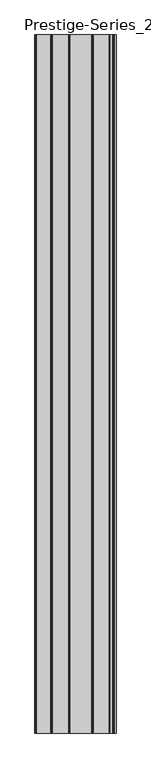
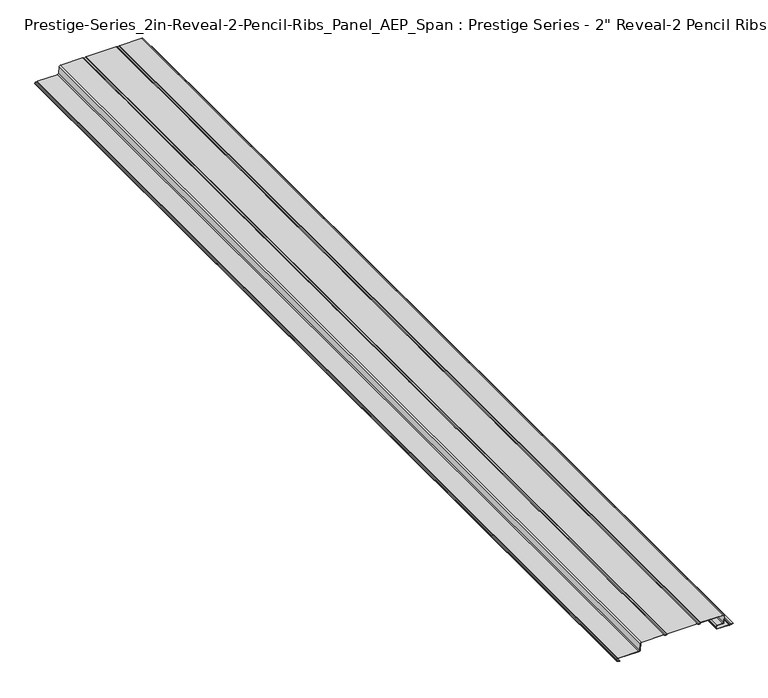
"""IFC4 building model written with IfcOpenShell, lengths in millimetres: proxy geometry."""

from ifc_helpers import new_model, si_unit, frame, origin, place, context, project, spatial, polyline, circle_curve, source, transform, mapped, element, save
from ifc_brep_helpers import plane_surface, cylinder_surface, revolved_surface, advanced_brep


def proxy_11bd0d3a(model_context):
    return source(origin(), model_context, "Body", "AdvancedBrep", [
        advanced_brep(
        [(-198.7547211, -3048.0, 3.7242703), (-189.4843346, -3048.0, 0.5644947), (-189.194247, -3048.0, 1.4155751), (-198.4646336, -3048.0, 4.5753508), (-199.9233445, -3048.0, 6.6828416), (-198.4939681, -3048.0, 8.7773217), (-195.6112258, -3048.0, 9.8066494), (-193.7761786, -3048.0, 10.12444), (-132.2998441, -3048.0, 10.12444), (-127.8696152, -3048.0, 14.1809361), (-126.0830083, -3048.0, 34.43747), (-123.0628556, -3048.0, 37.2035012), (-56.0920229, -3048.0, 37.2035012), (-55.0140101, -3048.0, 36.7208286), (-50.8150249, -3048.0, 34.7940335), (-46.581887, -3048.0, 36.6871455), (-45.3376777, -3048.0, 37.20084), (45.5747602, -3048.0, 37.20084), (46.5182123, -3048.0, 36.7248039), (50.7849751, -3048.0, 34.7940335), (55.018113, -3048.0, 36.6871455), (55.9951899, -3048.0, 37.20084), (123.0540042, -3048.0, 37.20084), (126.0938626, -3048.0, 33.9974885), (125.0907645, -3048.0, 14.8582693), (122.0509066, -3048.0, 11.97356), (106.3216484, -3048.0, 11.97356), (102.2536799, -3048.0, 7.9055915), (102.2536799, -3048.0, 3.9308085), (106.3216484, -3048.0, -0.13716), (139.8164818, -3048.0, -0.13716), (141.3747019, -3048.0, -0.7731706), (143.2602599, -3048.0, -0.7731706), (144.81848, -3048.0, -0.13716), (148.8421311, -3048.0, -0.13716), (153.568983, -3048.0, 1.1293858), (153.336265, -3048.0, 1.9979081), (148.7237554, -3048.0, 0.762), (144.6420429, -3048.0, 0.762), (142.9228086, -3048.0, 0.0602691), (141.7121532, -3048.0, 0.0602691), (139.9929189, -3048.0, 0.762), (106.3278397, -3048.0, 0.762), (103.1528399, -3048.0, 3.9369998), (103.1528399, -3048.0, 7.8994002), (106.3278397, -3048.0, 11.0744), (122.0567819, -3048.0, 11.0744), (125.9883846, -3048.0, 14.8053411), (126.9921317, -3048.0, 33.9569429), (123.0605284, -3048.0, 38.1), (56.1287561, -3048.0, 38.1), (54.3856333, -3048.0, 37.3195291), (50.7849751, -3048.0, 35.6870026), (47.1954553, -3048.0, 37.3072365), (45.441194, -3048.0, 38.1), (-45.4712439, -3048.0, 38.1), (-47.2143667, -3048.0, 37.3195291), (-50.8150249, -3048.0, 35.6870026), (-54.3820587, -3048.0, 37.2818711), (-56.158806, -3048.0, 38.1), (-123.0689632, -3048.0, 38.1), (-126.977312, -3048.0, 34.5213584), (-128.7647961, -3048.0, 14.2656231), (-132.3055131, -3048.0, 11.0236), (-193.7772508, -3048.0, 11.0236), (-195.9125782, -3048.0, 10.6538074), (-198.7963302, -3048.0, 9.6241191), (-200.8185197, -3048.0, 6.6814543), (-198.7547211, 0.0, 3.7242703), (-200.8185197, 0.0, 6.6814543), (-198.7963302, 0.0, 9.6241191), (-195.9125782, 0.0, 10.6538074), (-193.7772508, 0.0, 11.0236), (-132.3055131, 0.0, 11.0236), (-128.7647961, 0.0, 14.2656231), (-126.977312, 0.0, 34.5213584), (-123.0689632, 0.0, 38.1), (-56.158806, 0.0, 38.1), (-54.4156832, 0.0, 37.3195291), (-50.8150249, 0.0, 35.6870026), (-47.2479912, 0.0, 37.2818711), (-45.4712439, 0.0, 38.1), (45.441194, 0.0, 38.1), (47.1953198, 0.0, 37.3071172), (50.7849751, 0.0, 35.6870026), (54.3520088, 0.0, 37.2818711), (56.1287561, 0.0, 38.1), (123.0605284, 0.0, 38.1), (126.9921317, 0.0, 33.9569429), (125.9883846, 0.0, 14.8053411), (122.0567819, 0.0, 11.0744), (106.3278397, 0.0, 11.0744), (103.1528399, 0.0, 7.8994002), (103.1528399, 0.0, 3.9369998), (106.3278397, 0.0, 0.762), (139.9929189, 0.0, 0.762), (141.7121532, 0.0, 0.0602691), (142.9228086, 0.0, 0.0602691), (144.6420429, 0.0, 0.762), (148.7237554, 0.0, 0.762), (153.336265, 0.0, 1.9979081), (153.568983, 0.0, 1.1293858), (148.8421311, 0.0, -0.13716), (144.81848, 0.0, -0.13716), (143.2602599, 0.0, -0.7731706), (141.3747019, 0.0, -0.7731706), (139.8164818, 0.0, -0.13716), (106.3216484, 0.0, -0.13716), (102.2536799, 0.0, 3.9308085), (102.2536799, 0.0, 7.9055915), (106.3216484, 0.0, 11.97356), (122.0509066, 0.0, 11.97356), (125.0907645, 0.0, 14.8582693), (126.0938626, 0.0, 33.9974885), (123.0540042, 0.0, 37.20084), (55.9951899, 0.0, 37.20084), (55.0517378, 0.0, 36.7248039), (50.7849751, 0.0, 34.7940335), (46.5518372, 0.0, 36.6871455), (45.5747602, 0.0, 37.20084), (-45.3376777, 0.0, 37.20084), (-46.5482622, 0.0, 36.7248039), (-50.8150249, 0.0, 34.7940335), (-55.0481628, 0.0, 36.6871455), (-56.0920229, 0.0, 37.2035012), (-123.0628556, 0.0, 37.2035012), (-126.0830083, 0.0, 34.43747), (-127.8696152, 0.0, 14.1809361), (-132.2998441, 0.0, 10.12444), (-193.7761786, 0.0, 10.12444), (-195.6112258, 0.0, 9.8066494), (-198.4939681, 0.0, 8.7773217), (-199.9233445, 0.0, 6.6828416), (-198.4646336, 0.0, 4.5753508), (-189.194247, 0.0, 1.4155751), (-189.4843346, 0.0, 0.5644947)],
        [
            (0, 1),
            (1, 2),
            (2, 3),
            (3, 4, circle_curve(frame((-197.769376, -3048.0, 6.6151497), z_axis=(0.0, 1.0, 0.0), x_axis=(1.0, 0.0, 0.0)), 2.155032)),
            (4, 5, circle_curve(frame((-197.7692918, -3048.0, 6.7477884), z_axis=(0.0, 1.0, 0.0), x_axis=(1.0, 0.0, 0.0)), 2.1550316)),
            (5, 6),
            (6, 7, circle_curve(frame((-193.7761786, -3048.0, 4.6674035), z_axis=(0.0, 1.0, 0.0), x_axis=(1.0, 0.0, 0.0)), 5.4570365)),
            (7, 8),
            (8, 9, circle_curve(frame((-132.2998441, -3048.0, 14.5718853), z_axis=(0.0, -1.0, 0.0), x_axis=(1.0, 0.0, 0.0)), 4.4474453)),
            (9, 10),
            (10, 11, circle_curve(frame((-123.0628556, -3048.0, 34.1716751), z_axis=(0.0, 1.0, 0.0), x_axis=(1.0, 0.0, 0.0)), 3.0318261)),
            (11, 12),
            (12, 13, circle_curve(frame((-56.0920229, -3048.0, 35.7583349), z_axis=(0.0, 1.0, 0.0), x_axis=(1.0, 0.0, 0.0)), 1.4451663)),
            (13, 14, circle_curve(frame((-50.8200321, -3048.0, 40.462197), z_axis=(0.0, -1.0, 0.0), x_axis=(1.0, 0.0, 0.0)), 5.6681657)),
            (14, 15, circle_curve(frame((-50.8100178, -3048.0, 40.462197), z_axis=(0.0, -1.0, 0.0), x_axis=(1.0, 0.0, 0.0)), 5.6681657)),
            (15, 16, circle_curve(frame((-45.4712439, -3048.0, 35.763198), z_axis=(0.0, 1.0, 0.0), x_axis=(1.0, 0.0, 0.0)), 1.4438332)),
            (16, 17),
            (17, 18, circle_curve(frame((45.441194, -3048.0, 35.763198), z_axis=(0.0, 1.0, 0.0), x_axis=(1.0, 0.0, 0.0)), 1.4438332)),
            (18, 19, circle_curve(frame((50.7799679, -3048.0, 40.462197), z_axis=(0.0, -1.0, 0.0), x_axis=(1.0, 0.0, 0.0)), 5.6681657)),
            (19, 20, circle_curve(frame((50.7899822, -3048.0, 40.462197), z_axis=(0.0, -1.0, 0.0), x_axis=(1.0, 0.0, 0.0)), 5.6681657)),
            (20, 21, circle_curve(frame((56.1287561, -3048.0, 35.763198), z_axis=(0.0, 1.0, 0.0), x_axis=(1.0, 0.0, 0.0)), 1.4438332)),
            (21, 22),
            (22, 23, circle_curve(frame((123.0540042, -3048.0, 34.1568093), z_axis=(0.0, 1.0, 0.0), x_axis=(1.0, 0.0, 0.0)), 3.0440307)),
            (23, 24),
            (24, 25, circle_curve(frame((122.0509066, -3048.0, 15.0175901), z_axis=(0.0, 1.0, 0.0), x_axis=(1.0, 0.0, 0.0)), 3.0440301)),
            (25, 26),
            (26, 27, circle_curve(frame((106.3216484, -3048.0, 7.9055915), z_axis=(0.0, -1.0, 0.0), x_axis=(1.0, 0.0, 0.0)), 4.0679685)),
            (27, 28),
            (28, 29, circle_curve(frame((106.3216484, -3048.0, 3.9308085), z_axis=(0.0, -1.0, 0.0), x_axis=(1.0, 0.0, 0.0)), 4.0679685)),
            (29, 30),
            (30, 31),
            (31, 32, circle_curve(frame((142.3174809, -3048.0, 1.5366294), z_axis=(0.0, -1.0, 0.0), x_axis=(1.0, 0.0, 0.0)), 2.4947962)),
            (32, 33),
            (33, 34),
            (34, 35),
            (35, 36),
            (36, 37),
            (37, 38),
            (38, 39),
            (39, 40, circle_curve(frame((142.3174809, -3048.0, 1.5433165), z_axis=(0.0, 1.0, 0.0), x_axis=(1.0, 0.0, 0.0)), 1.6018275)),
            (40, 41),
            (41, 42),
            (42, 43, circle_curve(frame((106.3278397, -3048.0, 3.9369998), z_axis=(0.0, 1.0, 0.0), x_axis=(1.0, 0.0, 0.0)), 3.1749998)),
            (43, 44),
            (44, 45, circle_curve(frame((106.3278397, -3048.0, 7.8994002), z_axis=(0.0, 1.0, 0.0), x_axis=(1.0, 0.0, 0.0)), 3.1749998)),
            (45, 46),
            (46, 47, circle_curve(frame((122.0567819, -3048.0, 15.0113988), z_axis=(0.0, -1.0, 0.0), x_axis=(1.0, 0.0, 0.0)), 3.9369988)),
            (47, 48),
            (48, 49, circle_curve(frame((123.0605284, -3048.0, 34.1630006), z_axis=(0.0, -1.0, 0.0), x_axis=(1.0, 0.0, 0.0)), 3.9369994)),
            (49, 50),
            (50, 51, circle_curve(frame((56.1287561, -3048.0, 35.763198), z_axis=(0.0, -1.0, 0.0), x_axis=(1.0, 0.0, 0.0)), 2.336802)),
            (51, 52, circle_curve(frame((50.7899822, -3048.0, 40.462197), z_axis=(0.0, 1.0, 0.0), x_axis=(1.0, 0.0, 0.0)), 4.775197)),
            (52, 53, circle_curve(frame((50.7799679, -3048.0, 40.462197), z_axis=(0.0, 1.0, 0.0), x_axis=(1.0, 0.0, 0.0)), 4.775197)),
            (53, 54, circle_curve(frame((45.441194, -3048.0, 35.763198), z_axis=(0.0, -1.0, 0.0), x_axis=(1.0, 0.0, 0.0)), 2.336802)),
            (54, 55),
            (55, 56, circle_curve(frame((-45.4712439, -3048.0, 35.763198), z_axis=(0.0, -1.0, 0.0), x_axis=(1.0, 0.0, 0.0)), 2.336802)),
            (56, 57, circle_curve(frame((-50.8100178, -3048.0, 40.462197), z_axis=(0.0, 1.0, 0.0), x_axis=(1.0, 0.0, 0.0)), 4.775197)),
            (57, 58, circle_curve(frame((-50.8200321, -3048.0, 40.462197), z_axis=(0.0, 1.0, 0.0), x_axis=(1.0, 0.0, 0.0)), 4.775197)),
            (58, 59, circle_curve(frame((-56.158806, -3048.0, 35.763198), z_axis=(0.0, -1.0, 0.0), x_axis=(1.0, 0.0, 0.0)), 2.336802)),
            (59, 60),
            (60, 61, circle_curve(frame((-123.0689632, -3048.0, 34.1764629), z_axis=(0.0, -1.0, 0.0), x_axis=(1.0, 0.0, 0.0)), 3.9235371)),
            (61, 62),
            (62, 63, circle_curve(frame((-132.3055131, -3048.0, 14.5780766), z_axis=(0.0, 1.0, 0.0), x_axis=(1.0, 0.0, 0.0)), 3.5544766)),
            (63, 64),
            (64, 65, circle_curve(frame((-193.7772508, -3048.0, 4.6735948), z_axis=(0.0, -1.0, 0.0), x_axis=(1.0, 0.0, 0.0)), 6.3500052)),
            (65, 66),
            (66, 67, circle_curve(frame((-197.7713738, -3048.0, 6.7536191), z_axis=(0.0, -1.0, 0.0), x_axis=(1.0, 0.0, 0.0)), 3.0480004)),
            (67, 0, circle_curve(frame((-197.7713734, -3048.0, 6.6092895), z_axis=(0.0, -1.0, 0.0), x_axis=(1.0, 0.0, 0.0)), 3.0480007)),
            (68, 69, circle_curve(frame((-197.7713734, 0.0, 6.6092895), z_axis=(0.0, 1.0, 0.0), x_axis=(1.0, 0.0, 0.0)), 3.0480007)),
            (69, 70, circle_curve(frame((-197.7713738, 0.0, 6.7536191), z_axis=(0.0, 1.0, 0.0), x_axis=(1.0, 0.0, 0.0)), 3.0480004)),
            (70, 71),
            (71, 72, circle_curve(frame((-193.7772508, 0.0, 4.6735948), z_axis=(0.0, 1.0, 0.0), x_axis=(1.0, 0.0, 0.0)), 6.3500052)),
            (72, 73),
            (73, 74, circle_curve(frame((-132.3055131, 0.0, 14.5780766), z_axis=(0.0, -1.0, 0.0), x_axis=(1.0, 0.0, 0.0)), 3.5544766)),
            (74, 75),
            (75, 76, circle_curve(frame((-123.0689632, 0.0, 34.1764629), z_axis=(0.0, 1.0, 0.0), x_axis=(1.0, 0.0, 0.0)), 3.9235371)),
            (76, 77),
            (77, 78, circle_curve(frame((-56.158806, 0.0, 35.763198), z_axis=(0.0, 1.0, 0.0), x_axis=(1.0, 0.0, 0.0)), 2.336802)),
            (78, 79, circle_curve(frame((-50.8200321, 0.0, 40.462197), z_axis=(0.0, -1.0, 0.0), x_axis=(1.0, 0.0, 0.0)), 4.775197)),
            (79, 80, circle_curve(frame((-50.8100178, 0.0, 40.462197), z_axis=(0.0, -1.0, 0.0), x_axis=(1.0, 0.0, 0.0)), 4.775197)),
            (80, 81, circle_curve(frame((-45.4712439, 0.0, 35.763198), z_axis=(0.0, 1.0, 0.0), x_axis=(1.0, 0.0, 0.0)), 2.336802)),
            (81, 82),
            (82, 83, circle_curve(frame((45.441194, 0.0, 35.763198), z_axis=(0.0, 1.0, 0.0), x_axis=(1.0, 0.0, 0.0)), 2.336802)),
            (83, 84, circle_curve(frame((50.7799679, 0.0, 40.462197), z_axis=(0.0, -1.0, 0.0), x_axis=(1.0, 0.0, 0.0)), 4.775197)),
            (84, 85, circle_curve(frame((50.7899822, 0.0, 40.462197), z_axis=(0.0, -1.0, 0.0), x_axis=(1.0, 0.0, 0.0)), 4.775197)),
            (85, 86, circle_curve(frame((56.1287561, 0.0, 35.763198), z_axis=(0.0, 1.0, 0.0), x_axis=(1.0, 0.0, 0.0)), 2.336802)),
            (86, 87),
            (87, 88, circle_curve(frame((123.0605284, 0.0, 34.1630006), z_axis=(0.0, 1.0, 0.0), x_axis=(1.0, 0.0, 0.0)), 3.9369994)),
            (88, 89),
            (89, 90, circle_curve(frame((122.0567819, 0.0, 15.0113988), z_axis=(0.0, 1.0, 0.0), x_axis=(1.0, 0.0, 0.0)), 3.9369988)),
            (90, 91),
            (91, 92, circle_curve(frame((106.3278397, 0.0, 7.8994002), z_axis=(0.0, -1.0, 0.0), x_axis=(1.0, 0.0, 0.0)), 3.1749998)),
            (92, 93),
            (93, 94, circle_curve(frame((106.3278397, 0.0, 3.9369998), z_axis=(0.0, -1.0, 0.0), x_axis=(1.0, 0.0, 0.0)), 3.1749998)),
            (94, 95),
            (95, 96),
            (96, 97, circle_curve(frame((142.3174809, 0.0, 1.5433165), z_axis=(0.0, -1.0, 0.0), x_axis=(1.0, 0.0, 0.0)), 1.6018275)),
            (97, 98),
            (98, 99),
            (99, 100),
            (100, 101),
            (101, 102),
            (102, 103),
            (103, 104),
            (104, 105, circle_curve(frame((142.3174809, 0.0, 1.5366294), z_axis=(0.0, 1.0, 0.0), x_axis=(1.0, 0.0, 0.0)), 2.4947962)),
            (105, 106),
            (106, 107),
            (107, 108, circle_curve(frame((106.3216484, 0.0, 3.9308085), z_axis=(0.0, 1.0, 0.0), x_axis=(1.0, 0.0, 0.0)), 4.0679685)),
            (108, 109),
            (109, 110, circle_curve(frame((106.3216484, 0.0, 7.9055915), z_axis=(0.0, 1.0, 0.0), x_axis=(1.0, 0.0, 0.0)), 4.0679685)),
            (110, 111),
            (111, 112, circle_curve(frame((122.0509066, 0.0, 15.0175901), z_axis=(0.0, -1.0, 0.0), x_axis=(1.0, 0.0, 0.0)), 3.0440301)),
            (112, 113),
            (113, 114, circle_curve(frame((123.0540042, 0.0, 34.1568093), z_axis=(0.0, -1.0, 0.0), x_axis=(1.0, 0.0, 0.0)), 3.0440307)),
            (114, 115),
            (115, 116, circle_curve(frame((56.1287561, 0.0, 35.763198), z_axis=(0.0, -1.0, 0.0), x_axis=(1.0, 0.0, 0.0)), 1.4438332)),
            (116, 117, circle_curve(frame((50.7899822, 0.0, 40.462197), z_axis=(0.0, 1.0, 0.0), x_axis=(1.0, 0.0, 0.0)), 5.6681657)),
            (117, 118, circle_curve(frame((50.7799679, 0.0, 40.462197), z_axis=(0.0, 1.0, 0.0), x_axis=(1.0, 0.0, 0.0)), 5.6681657)),
            (118, 119, circle_curve(frame((45.441194, 0.0, 35.763198), z_axis=(0.0, -1.0, 0.0), x_axis=(1.0, 0.0, 0.0)), 1.4438332)),
            (119, 120),
            (120, 121, circle_curve(frame((-45.4712439, 0.0, 35.763198), z_axis=(0.0, -1.0, 0.0), x_axis=(1.0, 0.0, 0.0)), 1.4438332)),
            (121, 122, circle_curve(frame((-50.8100178, 0.0, 40.462197), z_axis=(0.0, 1.0, 0.0), x_axis=(1.0, 0.0, 0.0)), 5.6681657)),
            (122, 123, circle_curve(frame((-50.8200321, 0.0, 40.462197), z_axis=(0.0, 1.0, 0.0), x_axis=(1.0, 0.0, 0.0)), 5.6681657)),
            (123, 124, circle_curve(frame((-56.0920229, 0.0, 35.7583349), z_axis=(0.0, -1.0, 0.0), x_axis=(1.0, 0.0, 0.0)), 1.4451663)),
            (124, 125),
            (125, 126, circle_curve(frame((-123.0628556, 0.0, 34.1716751), z_axis=(0.0, -1.0, 0.0), x_axis=(1.0, 0.0, 0.0)), 3.0318261)),
            (126, 127),
            (127, 128, circle_curve(frame((-132.2998441, 0.0, 14.5718853), z_axis=(0.0, 1.0, 0.0), x_axis=(1.0, 0.0, 0.0)), 4.4474453)),
            (128, 129),
            (129, 130, circle_curve(frame((-193.7761786, 0.0, 4.6674035), z_axis=(0.0, -1.0, 0.0), x_axis=(1.0, 0.0, 0.0)), 5.4570365)),
            (130, 131),
            (131, 132, circle_curve(frame((-197.7692918, 0.0, 6.7477884), z_axis=(0.0, -1.0, 0.0), x_axis=(1.0, 0.0, 0.0)), 2.1550316)),
            (132, 133, circle_curve(frame((-197.769376, 0.0, 6.6151497), z_axis=(0.0, -1.0, 0.0), x_axis=(1.0, 0.0, 0.0)), 2.155032)),
            (133, 134),
            (134, 135),
            (135, 68),
            (0, 68),
            (135, 1),
            (134, 2),
            (133, 3),
            (132, 4),
            (131, 5),
            (130, 6),
            (129, 7),
            (128, 8),
            (127, 9),
            (126, 10),
            (125, 11),
            (21, 115),
            (114, 22),
            (113, 23),
            (112, 24),
            (111, 25),
            (110, 26),
            (109, 27),
            (108, 28),
            (107, 29),
            (106, 30),
            (105, 31),
            (104, 32),
            (103, 33),
            (102, 34),
            (101, 35),
            (100, 36),
            (99, 37),
            (98, 38),
            (97, 39),
            (96, 40),
            (95, 41),
            (94, 42),
            (93, 43),
            (92, 44),
            (91, 45),
            (90, 46),
            (89, 47),
            (88, 48),
            (87, 49),
            (54, 82),
            (81, 55),
            (59, 77),
            (76, 60),
            (75, 61),
            (74, 62),
            (73, 63),
            (72, 64),
            (71, 65),
            (70, 66),
            (69, 67),
            (124, 12),
            (123, 13),
            (122, 14),
            (121, 15),
            (120, 16),
            (119, 17),
            (118, 18),
            (117, 19),
            (116, 20),
            (86, 50),
            (85, 51),
            (84, 52),
            (83, 53),
            (80, 56),
            (79, 57),
            (78, 58),
        ],
        [
            plane_surface(frame((-189.4843346, -3048.0, 0.5644947), z_axis=(0.0, -1.0000000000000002, 0.0), x_axis=(0.9465283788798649, 0.0, -0.3226205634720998))),
            plane_surface(frame((-189.4843346, 0.0, 0.5644947), z_axis=(0.0, 1.0000000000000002, 0.0), x_axis=(-0.9465283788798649, 0.0, 0.3226205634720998))),
            plane_surface(frame((-198.7547211, -3048.0, 3.7242703), z_axis=(-0.3226205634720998, 0.0, -0.9465283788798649), x_axis=(0.0, 1.0, 0.0))),
            plane_surface(frame((-189.4843346, -3048.0, 0.5644947), z_axis=(0.9465283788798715, 0.0, -0.3226205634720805), x_axis=(0.0, 1.0, 0.0))),
            plane_surface(frame((-189.194247, -3048.0, 1.4155751), z_axis=(0.3226205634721, 0.0, 0.9465283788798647), x_axis=(0.0, 1.0, 0.0))),
            revolved_surface(polyline([(-195.614344, 0.0, 6.6151497), (-195.614344, -3048.0, 6.6151497)]), (-197.769376, 0.0, 6.6151497), (0.0, 1.0, 0.0)),
            revolved_surface(polyline([(-195.6142602, 0.0, 6.7477884), (-195.6142602, -3048.0, 6.7477884)]), (-197.7692918, 0.0, 6.7477884), (0.0, 1.0, 0.0)),
            plane_surface(frame((-198.4939681, -3048.0, 8.7773217), z_axis=(0.3362717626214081, 0.0, -0.9417649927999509), x_axis=(0.0, 1.0, 0.0))),
            revolved_surface(polyline([(-188.31914210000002, 0.0, 4.6674035), (-188.31914210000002, -3048.0, 4.6674035)]), (-193.7761786, 0.0, 4.6674035), (0.0, 1.0, 0.0)),
            plane_surface(frame((-193.7761786, -3048.0, 10.12444), z_axis=(0.0, 0.0, -1.0), x_axis=(0.0, 1.0, 0.0))),
            cylinder_surface(frame((-132.2998441, 0.0, 14.5718853), z_axis=(0.0, -1.0, 0.0), x_axis=(1.0, 0.0, 0.0)), 4.4474453),
            plane_surface(frame((-127.8696152, -3048.0, 14.1809361), z_axis=(0.9961330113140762, 0.0, -0.08785797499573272), x_axis=(0.0, 1.0, 0.0))),
            revolved_surface(polyline([(-120.0310295, 0.0, 34.1716751), (-120.0310295, -3048.0, 34.1716751)]), (-123.0628556, 0.0, 34.1716751), (0.0, 1.0, 0.0)),
            plane_surface(frame((55.9951899, -3048.0, 37.20084), z_axis=(0.0, 0.0, -1.0), x_axis=(0.0, 1.0, 0.0))),
            revolved_surface(polyline([(126.09803489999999, 0.0, 34.1568093), (126.09803489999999, -3048.0, 34.1568093)]), (123.0540042, 0.0, 34.1568093), (0.0, 1.0, 0.0)),
            plane_surface(frame((126.0938626, -3048.0, 33.9974885), z_axis=(-0.9986293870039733, 0.0, 0.05233877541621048), x_axis=(0.0, 1.0, 0.0))),
            revolved_surface(polyline([(125.0949367, 0.0, 15.0175901), (125.0949367, -3048.0, 15.0175901)]), (122.0509066, 0.0, 15.0175901), (0.0, 1.0, 0.0)),
            plane_surface(frame((122.0509066, -3048.0, 11.97356), z_axis=(0.0, 0.0, 1.0), x_axis=(0.0, 1.0, 0.0))),
            cylinder_surface(frame((106.3216484, 0.0, 7.9055915), z_axis=(0.0, -1.0, 0.0), x_axis=(1.0, 0.0, 0.0)), 4.0679685),
            plane_surface(frame((102.2536799, -3048.0, 7.9055915), z_axis=(-1.0, 0.0, 0.0), x_axis=(0.0, 1.0, 0.0))),
            cylinder_surface(frame((106.3216484, 0.0, 3.9308085), z_axis=(0.0, -1.0, 0.0), x_axis=(1.0, 0.0, 0.0)), 4.0679685),
            plane_surface(frame((106.3216484, -3048.0, -0.13716), z_axis=(0.0, 0.0, -1.0), x_axis=(0.0, 1.0, 0.0))),
            plane_surface(frame((139.8164818, -3048.0, -0.13716), z_axis=(-0.37789820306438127, 0.0, -0.9258471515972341), x_axis=(0.0, 1.0, 0.0))),
            cylinder_surface(frame((142.3174809, 0.0, 1.5366294), z_axis=(0.0, -1.0, 0.0), x_axis=(1.0, 0.0, 0.0)), 2.4947962),
            plane_surface(frame((143.2602599, -3048.0, -0.7731706), z_axis=(0.37789820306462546, 0.0, -0.9258471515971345), x_axis=(0.0, 1.0, 0.0))),
            plane_surface(frame((144.81848, -3048.0, -0.13716), z_axis=(0.0, 0.0, -1.0), x_axis=(0.0, 1.0, 0.0))),
            plane_surface(frame((148.8421311, -3048.0, -0.13716), z_axis=(0.2588170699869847, 0.0, -0.9659263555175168), x_axis=(0.0, 1.0, 0.0))),
            plane_surface(frame((153.568983, -3048.0, 1.1293858), z_axis=(0.9659263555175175, 0.0, 0.25881706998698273), x_axis=(0.0, 1.0, 0.0))),
            plane_surface(frame((153.336265, -3048.0, 1.9979081), z_axis=(-0.25881706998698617, 0.0, 0.9659263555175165), x_axis=(0.0, 1.0, 0.0))),
            plane_surface(frame((148.7237554, -3048.0, 0.762), z_axis=(0.0, 0.0, 1.0), x_axis=(0.0, 1.0, 0.0))),
            plane_surface(frame((144.6420429, -3048.0, 0.762), z_axis=(-0.3778982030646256, 0.0, 0.9258471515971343), x_axis=(0.0, 1.0, 0.0))),
            revolved_surface(polyline([(143.9193084, 0.0, 1.5433165), (143.9193084, -3048.0, 1.5433165)]), (142.3174809, 0.0, 1.5433165), (0.0, 1.0, 0.0)),
            plane_surface(frame((141.7121532, -3048.0, 0.0602691), z_axis=(0.3778982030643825, 0.0, 0.9258471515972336), x_axis=(0.0, 1.0, 0.0))),
            plane_surface(frame((139.9929189, -3048.0, 0.762), z_axis=(0.0, 0.0, 1.0), x_axis=(0.0, 1.0, 0.0))),
            revolved_surface(polyline([(109.5028395, 0.0, 3.9369998), (109.5028395, -3048.0, 3.9369998)]), (106.3278397, 0.0, 3.9369998), (0.0, 1.0, 0.0)),
            plane_surface(frame((103.1528399, -3048.0, 3.9369998), z_axis=(1.0, 0.0, 0.0), x_axis=(0.0, 1.0, 0.0))),
            revolved_surface(polyline([(109.5028395, 0.0, 7.8994002), (109.5028395, -3048.0, 7.8994002)]), (106.3278397, 0.0, 7.8994002), (0.0, 1.0, 0.0)),
            plane_surface(frame((106.3278397, -3048.0, 11.0744), z_axis=(0.0, 0.0, -1.0), x_axis=(0.0, 1.0, 0.0))),
            cylinder_surface(frame((122.0567819, 0.0, 15.0113988), z_axis=(0.0, -1.0, 0.0), x_axis=(1.0, 0.0, 0.0)), 3.9369988),
            plane_surface(frame((125.9883846, -3048.0, 14.8053411), z_axis=(0.9986293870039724, 0.0, -0.052338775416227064), x_axis=(0.0, 1.0, 0.0))),
            cylinder_surface(frame((123.0605284, 0.0, 34.1630006), z_axis=(0.0, -1.0, 0.0), x_axis=(1.0, 0.0, 0.0)), 3.9369994),
            plane_surface(frame((45.441194, -3048.0, 38.1), z_axis=(0.0, 0.0, 1.0), x_axis=(0.0, 1.0, 0.0))),
            plane_surface(frame((-56.158806, -3048.0, 38.1), z_axis=(0.0, 0.0, 1.0), x_axis=(0.0, 1.0, 0.0))),
            cylinder_surface(frame((-123.0689632, 0.0, 34.1764629), z_axis=(0.0, -1.0, 0.0), x_axis=(1.0, 0.0, 0.0)), 3.9235371),
            plane_surface(frame((-126.977312, -3048.0, 34.5213584), z_axis=(-0.9961289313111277, 0.0, 0.08790422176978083), x_axis=(0.0, 1.0, 0.0))),
            revolved_surface(polyline([(-128.75103650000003, 0.0, 14.5780766), (-128.75103650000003, -3048.0, 14.5780766)]), (-132.3055131, 0.0, 14.5780766), (0.0, 1.0, 0.0)),
            plane_surface(frame((-132.3055131, -3048.0, 11.0236), z_axis=(0.0, 0.0, 1.0), x_axis=(0.0, 1.0, 0.0))),
            cylinder_surface(frame((-193.7772508, 0.0, 4.6735948), z_axis=(0.0, -1.0, 0.0), x_axis=(1.0, 0.0, 0.0)), 6.3500052),
            plane_surface(frame((-195.9125782, -3048.0, 10.6538074), z_axis=(-0.33627176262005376, 0.0, 0.9417649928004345), x_axis=(0.0, 1.0, 0.0))),
            cylinder_surface(frame((-197.7713738, 0.0, 6.7536191), z_axis=(0.0, -1.0, 0.0), x_axis=(1.0, 0.0, 0.0)), 3.0480004),
            cylinder_surface(frame((-197.7713734, 0.0, 6.6092895), z_axis=(0.0, -1.0, 0.0), x_axis=(1.0, 0.0, 0.0)), 3.0480007),
            plane_surface(frame((-123.0628556, -3048.0, 37.2035012), z_axis=(0.0, 0.0, -1.0), x_axis=(0.0, 1.0, 0.0))),
            revolved_surface(polyline([(-54.64685660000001, 0.0, 35.7583349), (-54.64685660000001, -3048.0, 35.7583349)]), (-56.0920229, 0.0, 35.7583349), (0.0, 1.0, 0.0)),
            cylinder_surface(frame((-50.8200321, 0.0, 40.462197), z_axis=(0.0, -1.0, 0.0), x_axis=(1.0, 0.0, 0.0)), 5.6681657),
            cylinder_surface(frame((-50.8100178, 0.0, 40.462197), z_axis=(0.0, -1.0, 0.0), x_axis=(1.0, 0.0, 0.0)), 5.6681657),
            revolved_surface(polyline([(-44.0274107, 0.0, 35.763198), (-44.0274107, -3048.0, 35.763198)]), (-45.4712439, 0.0, 35.763198), (0.0, 1.0, 0.0)),
            plane_surface(frame((-45.3376777, -3048.0, 37.20084), z_axis=(0.0, 0.0, -1.0), x_axis=(0.0, 1.0, 0.0))),
            revolved_surface(polyline([(46.8850272, 0.0, 35.763198), (46.8850272, -3048.0, 35.763198)]), (45.441194, 0.0, 35.763198), (0.0, 1.0, 0.0)),
            cylinder_surface(frame((50.7799679, 0.0, 40.462197), z_axis=(0.0, -1.0, 0.0), x_axis=(1.0, 0.0, 0.0)), 5.6681657),
            cylinder_surface(frame((50.7899822, 0.0, 40.462197), z_axis=(0.0, -1.0, 0.0), x_axis=(1.0, 0.0, 0.0)), 5.6681657),
            revolved_surface(polyline([(57.5725893, 0.0, 35.763198), (57.5725893, -3048.0, 35.763198)]), (56.1287561, 0.0, 35.763198), (0.0, 1.0, 0.0)),
            plane_surface(frame((123.0605284, -3048.0, 38.1), z_axis=(0.0, 0.0, 1.0), x_axis=(0.0, 1.0, 0.0))),
            cylinder_surface(frame((56.1287561, 0.0, 35.763198), z_axis=(0.0, -1.0, 0.0), x_axis=(1.0, 0.0, 0.0)), 2.336802),
            revolved_surface(polyline([(55.565179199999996, 0.0, 40.462197), (55.565179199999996, -3048.0, 40.462197)]), (50.7899822, 0.0, 40.462197), (0.0, 1.0, 0.0)),
            revolved_surface(polyline([(55.5551649, 0.0, 40.462197), (55.5551649, -3048.0, 40.462197)]), (50.7799679, 0.0, 40.462197), (0.0, 1.0, 0.0)),
            cylinder_surface(frame((45.441194, 0.0, 35.763198), z_axis=(0.0, -1.0, 0.0), x_axis=(1.0, 0.0, 0.0)), 2.336802),
            cylinder_surface(frame((-45.4712439, 0.0, 35.763198), z_axis=(0.0, -1.0, 0.0), x_axis=(1.0, 0.0, 0.0)), 2.336802),
            revolved_surface(polyline([(-46.0348208, 0.0, 40.462197), (-46.0348208, -3048.0, 40.462197)]), (-50.8100178, 0.0, 40.462197), (0.0, 1.0, 0.0)),
            revolved_surface(polyline([(-46.0448351, 0.0, 40.462197), (-46.0448351, -3048.0, 40.462197)]), (-50.8200321, 0.0, 40.462197), (0.0, 1.0, 0.0)),
            cylinder_surface(frame((-56.158806, 0.0, 35.763198), z_axis=(0.0, -1.0, 0.0), x_axis=(1.0, 0.0, 0.0)), 2.336802),
        ],
        [
            (0, [[1, 2, 3, 4, 5, 6, 7, 8, 9, 10, 11, 12, 13, 14, 15, 16, 17, 18, 19, 20, 21, 22, 23, 24, 25, 26, 27, 28, 29, 30, 31, 32, 33, 34, 35, 36, 37, 38, 39, 40, 41, 42, 43, 44, 45, 46, 47, 48, 49, 50, 51, 52, 53, 54, 55, 56, 57, 58, 59, 60, 61, 62, 63, 64, 65, 66, 67, 68]]),
            (1, [[69, 70, 71, 72, 73, 74, 75, 76, 77, 78, 79, 80, 81, 82, 83, 84, 85, 86, 87, 88, 89, 90, 91, 92, 93, 94, 95, 96, 97, 98, 99, 100, 101, 102, 103, 104, 105, 106, 107, 108, 109, 110, 111, 112, 113, 114, 115, 116, 117, 118, 119, 120, 121, 122, 123, 124, 125, 126, 127, 128, 129, 130, 131, 132, 133, 134, 135, 136]]),
            (2, [[-1, 137, -136, 138]]),
            (3, [[-2, -138, -135, 139]]),
            (4, [[-3, -139, -134, 140]]),
            (5, [[-4, -140, -133, 141]]),
            (6, [[-5, -141, -132, 142]]),
            (7, [[-6, -142, -131, 143]]),
            (8, [[-7, -143, -130, 144]]),
            (9, [[-8, -144, -129, 145]]),
            (10, [[-9, -145, -128, 146]]),
            (11, [[-10, -146, -127, 147]]),
            (12, [[-11, -147, -126, 148]]),
            (13, [[-22, 149, -115, 150]]),
            (14, [[-23, -150, -114, 151]]),
            (15, [[-24, -151, -113, 152]]),
            (16, [[-25, -152, -112, 153]]),
            (17, [[-26, -153, -111, 154]]),
            (18, [[-27, -154, -110, 155]]),
            (19, [[-28, -155, -109, 156]]),
            (20, [[-29, -156, -108, 157]]),
            (21, [[-30, -157, -107, 158]]),
            (22, [[-31, -158, -106, 159]]),
            (23, [[-32, -159, -105, 160]]),
            (24, [[-33, -160, -104, 161]]),
            (25, [[-34, -161, -103, 162]]),
            (26, [[-35, -162, -102, 163]]),
            (27, [[-36, -163, -101, 164]]),
            (28, [[-37, -164, -100, 165]]),
            (29, [[-38, -165, -99, 166]]),
            (30, [[-39, -166, -98, 167]]),
            (31, [[-40, -167, -97, 168]]),
            (32, [[-41, -168, -96, 169]]),
            (33, [[-42, -169, -95, 170]]),
            (34, [[-43, -170, -94, 171]]),
            (35, [[-44, -171, -93, 172]]),
            (36, [[-45, -172, -92, 173]]),
            (37, [[-46, -173, -91, 174]]),
            (38, [[-47, -174, -90, 175]]),
            (39, [[-48, -175, -89, 176]]),
            (40, [[-49, -176, -88, 177]]),
            (41, [[-55, 178, -82, 179]]),
            (42, [[-60, 180, -77, 181]]),
            (43, [[-61, -181, -76, 182]]),
            (44, [[-62, -182, -75, 183]]),
            (45, [[-63, -183, -74, 184]]),
            (46, [[-64, -184, -73, 185]]),
            (47, [[-65, -185, -72, 186]]),
            (48, [[-66, -186, -71, 187]]),
            (49, [[-67, -187, -70, 188]]),
            (50, [[-68, -188, -69, -137]]),
            (51, [[-12, -148, -125, 189]]),
            (52, [[-13, -189, -124, 190]]),
            (53, [[-14, -190, -123, 191]]),
            (54, [[-15, -191, -122, 192]]),
            (55, [[-16, -192, -121, 193]]),
            (56, [[-17, -193, -120, 194]]),
            (57, [[-18, -194, -119, 195]]),
            (58, [[-19, -195, -118, 196]]),
            (59, [[-20, -196, -117, 197]]),
            (60, [[-21, -197, -116, -149]]),
            (61, [[-50, -177, -87, 198]]),
            (62, [[-51, -198, -86, 199]]),
            (63, [[-52, -199, -85, 200]]),
            (64, [[-53, -200, -84, 201]]),
            (65, [[-54, -201, -83, -178]]),
            (66, [[-56, -179, -81, 202]]),
            (67, [[-57, -202, -80, 203]]),
            (68, [[-58, -203, -79, 204]]),
            (69, [[-59, -204, -78, -180]]),
        ],
    ),
    ])


if __name__ == "__main__":
    model = new_model("IFC4")
    model_context = context("Model", 3, world=origin())
    ifc_project = project(units=[si_unit("LENGTHUNIT", "METRE", prefix="MILLI")], contexts=[model_context])
    site = spatial("IfcSite", under=ifc_project)
    building = spatial("IfcBuilding", under=site)
    placement = place(None, origin())
    proxy_shape = proxy_11bd0d3a(model_context)
    element("IfcBuildingElementProxy", 1, Name="Prestige-Series_2in-Reveal-2-Pencil-Ribs_Panel_AEP_Span : Prestige Series - 2\" Reveal-2 Pencil Ribs - 20ga", ObjectType="Prestige-Series_2in-Reveal-2-Pencil-Ribs_Panel_AEP_Span : Prestige Series - 2\" Reveal-2 Pencil Ribs - 20ga", at=placement, inside=building, context=model_context, shape_type="MappedRepresentation", body=[
        mapped(proxy_shape, transform((0.0, 0.0, 0.0), x_axis=(1.0, 0.0, 0.0), y_axis=(0.0, 1.0, 0.0), z_axis=(0.0, 0.0, 1.0))),
    ])
    save(model, "model.ifc")
